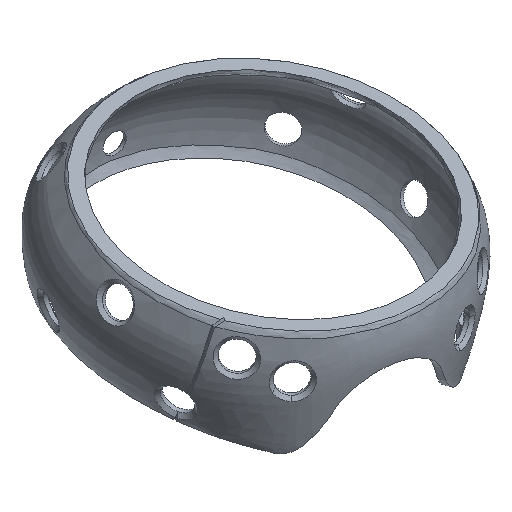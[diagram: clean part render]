
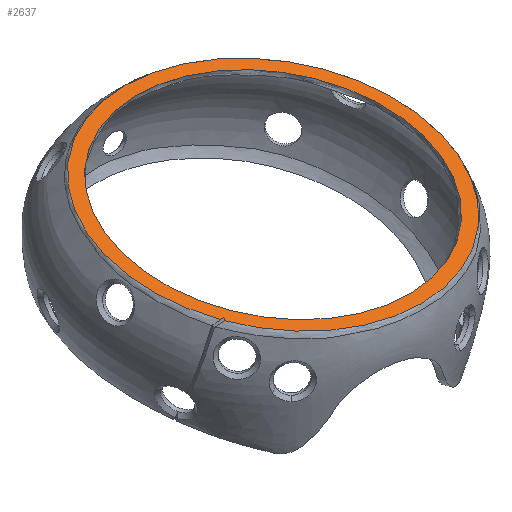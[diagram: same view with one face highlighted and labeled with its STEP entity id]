
A CAD part, top view. The second image highlights one B-rep face of the part: STEP entity #2637.
In plain terms, the highlighted planar face has unit normal (0.136, 0.752, 0.644).
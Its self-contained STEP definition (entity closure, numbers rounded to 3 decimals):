
#24=CIRCLE('',#2681,43.939);
#25=CIRCLE('',#2691,40.231);
#73=FACE_BOUND('',#568,.T.);
#148=LINE('',#30215,#234);
#151=LINE('',#30336,#237);
#234=VECTOR('',#2833,10.1);
#237=VECTOR('',#2840,10.1);
#264=PLANE('',#2690);
#399=FACE_OUTER_BOUND('',#567,.T.);
#567=EDGE_LOOP('',(#2386,#2387,#2388));
#568=EDGE_LOOP('',(#2389));
#1138=VERTEX_POINT('',#22432);
#1139=VERTEX_POINT('',#22434);
#1159=VERTEX_POINT('',#30214);
#1162=VERTEX_POINT('',#31823);
#1521=EDGE_CURVE('',#1139,#1138,#24,.T.);
#1556=EDGE_CURVE('',#1139,#1159,#148,.T.);
#1564=EDGE_CURVE('',#1159,#1138,#151,.T.);
#1572=EDGE_CURVE('',#1162,#1162,#25,.T.);
#2386=ORIENTED_EDGE('',*,*,#1564,.F.);
#2387=ORIENTED_EDGE('',*,*,#1556,.F.);
#2388=ORIENTED_EDGE('',*,*,#1521,.T.);
#2389=ORIENTED_EDGE('',*,*,#1572,.T.);
#2637=ADVANCED_FACE('',(#399,#73),#264,.F.);
#2681=AXIS2_PLACEMENT_3D('',#22435,#2816,#2817);
#2690=AXIS2_PLACEMENT_3D('',#31822,#2851,#2852);
#2691=AXIS2_PLACEMENT_3D('',#31824,#2853,#2854);
#2816=DIRECTION('center_axis',(0.136,0.753,0.644));
#2817=DIRECTION('ref_axis',(-0.881,-0.206,0.427));
#2833=DIRECTION('',(-0.22,0.657,-0.721));
#2840=DIRECTION('',(-0.652,-0.421,0.63));
#2851=DIRECTION('center_axis',(-0.136,-0.753,-0.644));
#2852=DIRECTION('ref_axis',(-0.677,-0.404,0.615));
#2853=DIRECTION('center_axis',(-0.136,-0.753,-0.644));
#2854=DIRECTION('ref_axis',(-0.881,-0.206,0.427));
#22432=CARTESIAN_POINT('',(-4.934,10.347,12.689));
#22434=CARTESIAN_POINT('',(-4.053,10.109,12.781));
#22435=CARTESIAN_POINT('Origin',(6.17,36.821,-20.575));
#30214=CARTESIAN_POINT('',(-4.275,10.773,12.053));
#30215=CARTESIAN_POINT('',(-8.381,23.039,-1.405));
#30336=CARTESIAN_POINT('',(8.232,18.851,-0.024));
#31822=CARTESIAN_POINT('Origin',(6.17,36.821,-20.575));
#31823=CARTESIAN_POINT('',(41.601,45.106,-37.738));
#31824=CARTESIAN_POINT('Origin',(6.17,36.821,-20.575));
